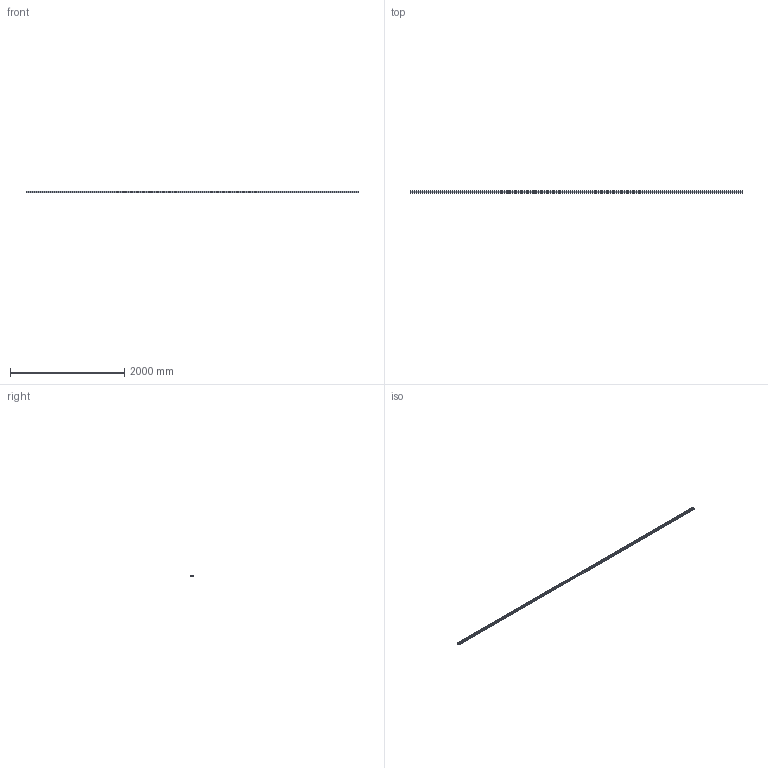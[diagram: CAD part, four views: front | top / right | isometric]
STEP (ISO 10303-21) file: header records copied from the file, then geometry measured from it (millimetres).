
FILE_DESCRIPTION(('STEP AP242'),'1');
FILE_NAME('OPO_51.047.73.stp','2026-02-23T17:26:10',(' '),(' '),'Spatial InterOp 3D',' ',' ');
FILE_SCHEMA(('AP242_MANAGED_MODEL_BASED_3D_ENGINEERING_MIM_LF {1 0 10303 442 1 1 4}'));
Length unit declared in the file: millimetre
Products named in the file (1): 1
Bounding box: 5800 x 48.5 x 33 mm (x, y, z)
Volume: 1308809.8 mm3; surface area: 1945270.8 mm2
Topology: 1 solids, 1 shells, 96 faces, 268 edges, 178 vertices
Faces by surface type: plane 76, cylinder 20
Entity records: 3844 total; most frequent: CARTESIAN_POINT 543, ORIENTED_EDGE 536, DIRECTION 502, EDGE_CURVE 268, LINE 228, VECTOR 228, VERTEX_POINT 178, AXIS2_PLACEMENT_3D 137
